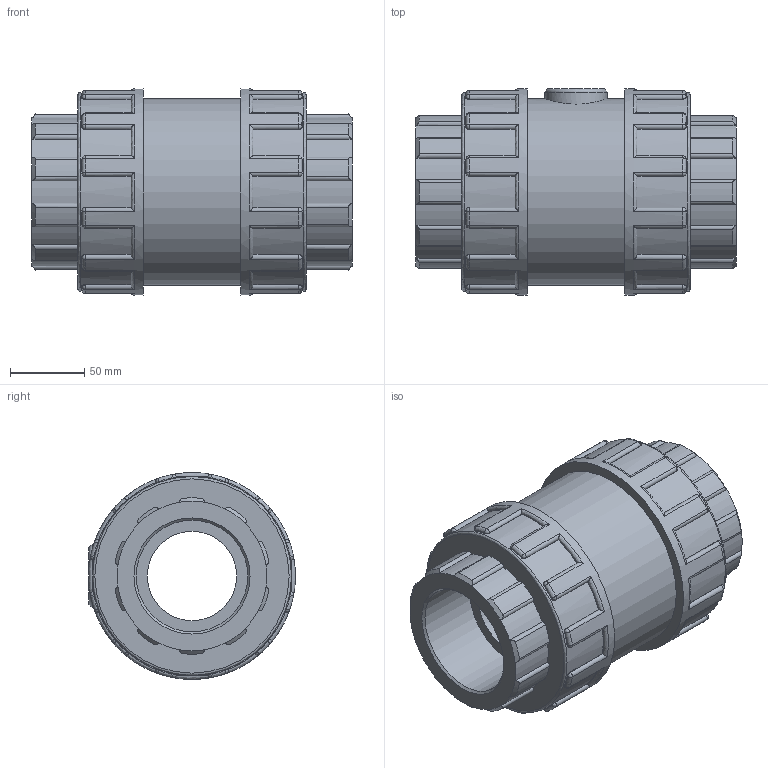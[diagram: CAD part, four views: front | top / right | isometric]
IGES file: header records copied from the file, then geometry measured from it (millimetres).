
Global section: file name: 11080075.ipt; native system: Autodesk Inventor 2015; preprocessor: unknown; author: KIM; date: 20171207.170036; units: millimetre
Bounding box: 215 x 139 x 139 mm (x, y, z)
Volume: 1854452.2 mm3; surface area: 161415.9 mm2
Topology: 1 solids, 1 shells, 411 faces, 1033 edges, 630 vertices
Faces by surface type: cylinder 182, plane 105, revolution 56, sphere 48, cone 20
Full cylindrical faces by diameter (mm): 41.7 x1, 125.1 x1, 133.44 x2, 139 x2
